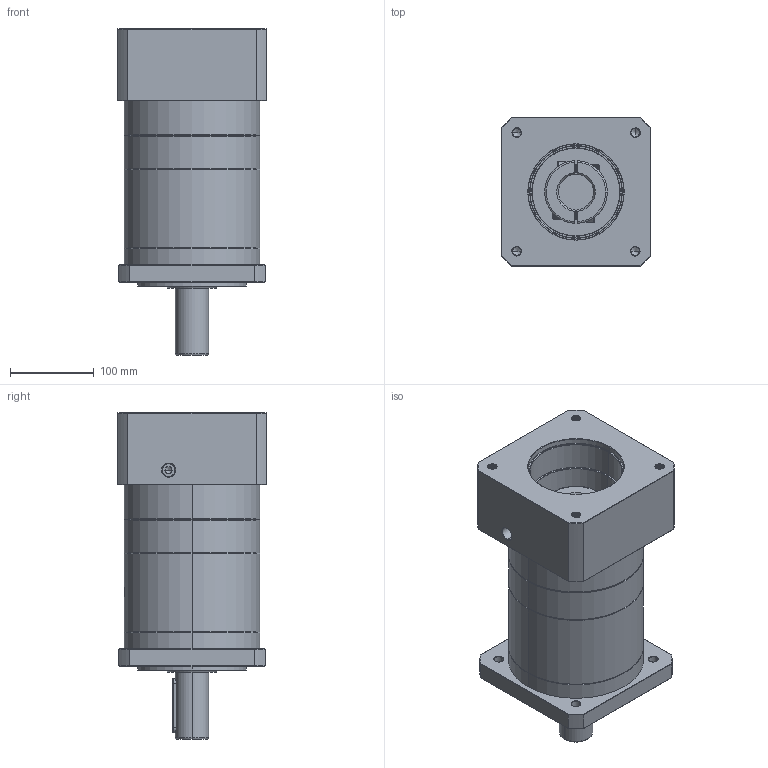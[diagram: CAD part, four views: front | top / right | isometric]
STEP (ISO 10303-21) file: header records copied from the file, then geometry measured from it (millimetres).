
FILE_DESCRIPTION (( 'STEP AP214' ), '1' );
FILE_NAME ('ZF160A-D40-L3-P2-42-114.3-200-M12.step', '2023-09-03T07:00:46', ( '' ), ( '' ), 'SwSTEP 2.0', 'SolidWorks 2016', '' );
FILE_SCHEMA (( 'AUTOMOTIVE_DESIGN' ));
Length unit declared in the file: millimetre
Products named in the file (1): ZF160A-D40-L3-P2-42-114.3-200-M12
Bounding box: 178 x 178 x 390.2 mm (x, y, z)
Volume: 6733990.7 mm3; surface area: 401161.1 mm2
Topology: 5 solids, 5 shells, 2186 faces, 5893 edges, 3814 vertices
Faces by surface type: plane 1015, bspline 411, cylinder 411, cone 327, torus 22
Entity records: 125473 total; most frequent: CARTESIAN_POINT 51667, ORIENTED_EDGE 11726, DIRECTION 8581, EDGE_CURVE 5863, VERTEX_POINT 3814, VECTOR 3053, LINE 3053, AXIS2_PLACEMENT_3D 2764
